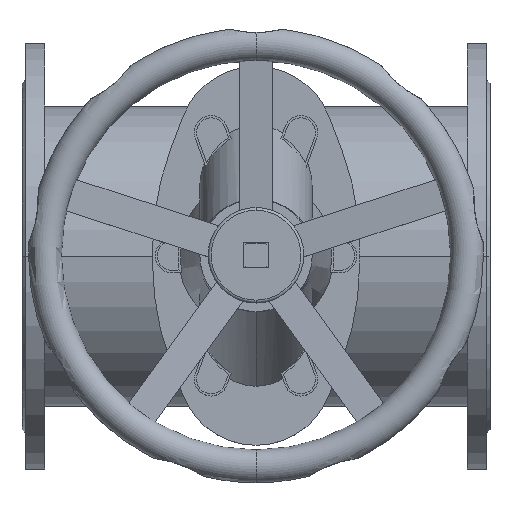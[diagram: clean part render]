
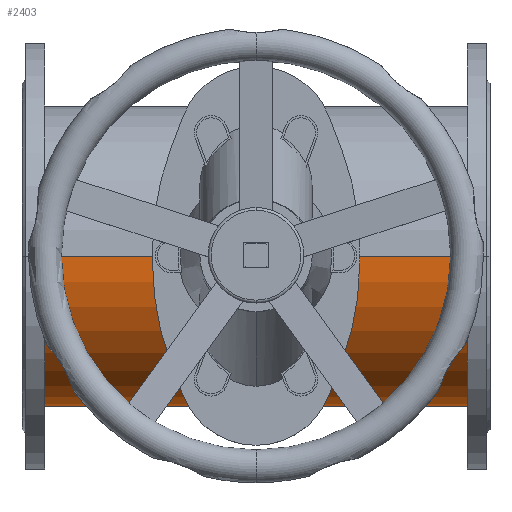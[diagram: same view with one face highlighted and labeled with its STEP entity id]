
A CAD part, top view. The second image highlights one B-rep face of the part: STEP entity #2403.
In plain terms, the highlighted cylindrical face has radius 160 mm (diameter 320 mm), a partial arc.
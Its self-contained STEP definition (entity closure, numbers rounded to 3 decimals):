
#2403=ADVANCED_FACE('',(#4480),#4481,.T.);
#4480=FACE_OUTER_BOUND('',#6779,.T.);
#4481=CYLINDRICAL_SURFACE('',#6780,160.0);
#6779=EDGE_LOOP('',(#11834,#11835,#11836,#11837));
#6780=AXIS2_PLACEMENT_3D('',#11838,#11839,#11840);
#11834=ORIENTED_EDGE('',*,*,#13138,.F.);
#11835=ORIENTED_EDGE('',*,*,#12350,.T.);
#11836=ORIENTED_EDGE('',*,*,#13139,.F.);
#11837=ORIENTED_EDGE('',*,*,#12987,.T.);
#11838=CARTESIAN_POINT('',(24.5,0.0,0.));
#11839=DIRECTION('',(1.0,0.0,0.));
#11840=DIRECTION('',(0.,0.0,1.0));
#12350=EDGE_CURVE('',#14687,#14688,#14689,.T.);
#12987=EDGE_CURVE('',#15690,#15689,#15692,.T.);
#13138=EDGE_CURVE('',#14687,#15689,#15903,.T.);
#13139=EDGE_CURVE('',#15690,#14688,#15904,.T.);
#14687=VERTEX_POINT('',#17966);
#14688=VERTEX_POINT('',#17967);
#14689=CIRCLE('',#17968,160.0);
#15689=VERTEX_POINT('',#19358);
#15690=VERTEX_POINT('',#19359);
#15692=CIRCLE('',#19361,160.0);
#15903=LINE('',#19638,#19639);
#15904=LINE('',#19640,#19641);
#17966=CARTESIAN_POINT('',(24.5,0.0,160.0));
#17967=CARTESIAN_POINT('',(24.5,0.,-160.0));
#17968=AXIS2_PLACEMENT_3D('',#21461,#21462,#21463);
#19358=CARTESIAN_POINT('',(475.5,0.0,160.0));
#19359=CARTESIAN_POINT('',(475.5,0.,-160.0));
#19361=AXIS2_PLACEMENT_3D('',#22362,#22363,#22364);
#19638=CARTESIAN_POINT('',(24.5,0.,160.0));
#19639=VECTOR('',#22548,1.0);
#19640=CARTESIAN_POINT('',(24.5,0.,-160.0));
#19641=VECTOR('',#22549,1.0);
#21461=CARTESIAN_POINT('',(24.5,0.0,0.));
#21462=DIRECTION('',(1.0,0.0,0.));
#21463=DIRECTION('',(0.,0.0,1.0));
#22362=CARTESIAN_POINT('',(475.5,0.0,0.));
#22363=DIRECTION('',(-1.0,0.0,0.));
#22364=DIRECTION('',(0.,0.0,1.0));
#22548=DIRECTION('',(1.0,0.0,0.));
#22549=DIRECTION('',(-1.0,-0.0,0.));
